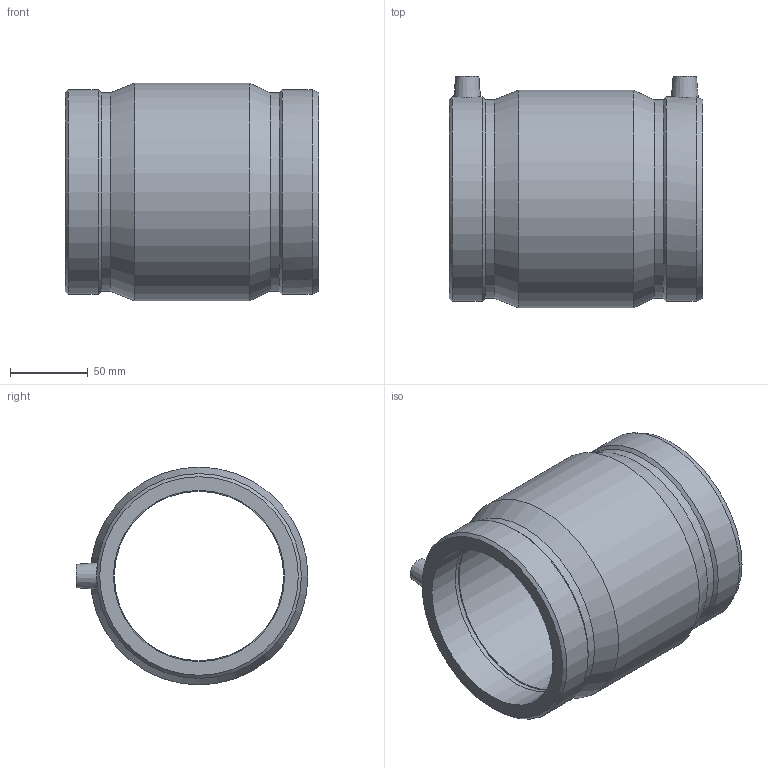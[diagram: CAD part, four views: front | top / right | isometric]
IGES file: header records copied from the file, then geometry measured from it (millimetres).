
Global section: file name: 450104110.ipt; native system: Autodesk Inventor 2015; preprocessor: unknown; author: KIM; date: 20171106.093351; units: millimetre
Bounding box: 163 x 149 x 140 mm (x, y, z)
Volume: 803164.6 mm3; surface area: 137845.3 mm2
Topology: 1 solids, 1 shells, 36 faces, 80 edges, 54 vertices
Faces by surface type: plane 12, revolution 9, cone 8, cylinder 7
Full cylindrical faces by diameter (mm): 4 x2, 127.652 x2, 131.6 x2, 140 x1
